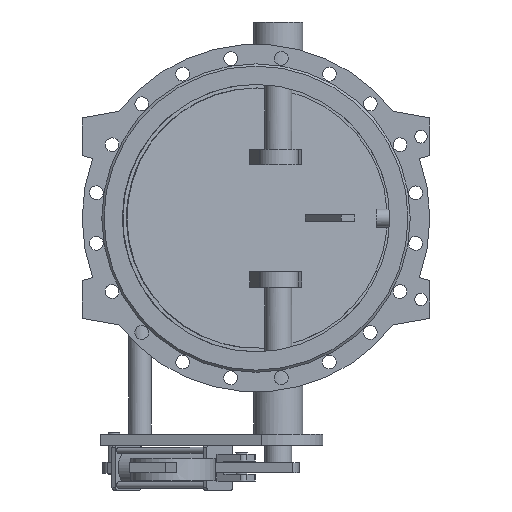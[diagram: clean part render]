
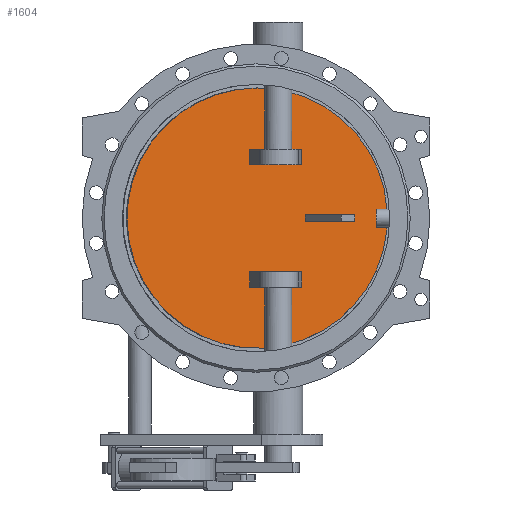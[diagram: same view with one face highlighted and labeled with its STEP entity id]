
A CAD part, front view. The second image highlights one B-rep face of the part: STEP entity #1604.
In plain terms, the highlighted planar face has unit normal (0.131, -0.991, 0).
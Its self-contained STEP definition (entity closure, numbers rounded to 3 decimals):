
#1604=ADVANCED_FACE('',(#3557,#3559,#3561,#3563),#3565,.T.);
#3557=FACE_BOUND('',#3558,.T.);
#3558=EDGE_LOOP('',(#4678));
#3559=FACE_BOUND('',#3560,.T.);
#3560=EDGE_LOOP('',(#4679,#4680,#4681,#4682));
#3561=FACE_BOUND('',#3562,.T.);
#3562=EDGE_LOOP('',(#4683,#4684,#4685,#4686));
#3563=FACE_BOUND('',#3564,.T.);
#3564=EDGE_LOOP('',(#4687,#4688,#4689,#4690));
#3565=PLANE('',#3566);
#3566=AXIS2_PLACEMENT_3D('',#3567,#3568,#3569);
#3567=CARTESIAN_POINT('',(-1.272,9.66,0.));
#3568=DIRECTION('',(0.131,-0.991,0.));
#3569=DIRECTION('',(0.,0.,-1.));
#4678=ORIENTED_EDGE('',*,*,#5177,.T.);
#4679=ORIENTED_EDGE('',*,*,#5194,.F.);
#4680=ORIENTED_EDGE('',*,*,#5195,.F.);
#4681=ORIENTED_EDGE('',*,*,#5196,.F.);
#4682=ORIENTED_EDGE('',*,*,#5197,.F.);
#4683=ORIENTED_EDGE('',*,*,#5198,.F.);
#4684=ORIENTED_EDGE('',*,*,#5199,.F.);
#4685=ORIENTED_EDGE('',*,*,#5200,.F.);
#4686=ORIENTED_EDGE('',*,*,#5201,.F.);
#4687=ORIENTED_EDGE('',*,*,#5202,.F.);
#4688=ORIENTED_EDGE('',*,*,#5203,.F.);
#4689=ORIENTED_EDGE('',*,*,#5204,.F.);
#4690=ORIENTED_EDGE('',*,*,#5205,.F.);
#5177=EDGE_CURVE('',#5917,#5917,#5918,.T.);
#5194=EDGE_CURVE('',#5951,#5952,#5953,.T.);
#5195=EDGE_CURVE('',#5954,#5951,#5955,.F.);
#5196=EDGE_CURVE('',#5956,#5954,#5957,.T.);
#5197=EDGE_CURVE('',#5952,#5956,#5958,.T.);
#5198=EDGE_CURVE('',#5959,#5960,#5961,.F.);
#5199=EDGE_CURVE('',#5962,#5959,#5963,.T.);
#5200=EDGE_CURVE('',#5964,#5962,#5965,.T.);
#5201=EDGE_CURVE('',#5960,#5964,#5966,.T.);
#5202=EDGE_CURVE('',#5967,#5968,#5969,.T.);
#5203=EDGE_CURVE('',#5970,#5967,#5971,.F.);
#5204=EDGE_CURVE('',#5972,#5970,#5973,.F.);
#5205=EDGE_CURVE('',#5968,#5972,#5974,.F.);
#5917=VERTEX_POINT('',#9003);
#5918=B_SPLINE_CURVE_WITH_KNOTS('',3,
(#9004,#9005,#9006,#9007,#9008,#9009,#9010,#9011,#9012,#9013,#9014,#9015,#9016,#9017,
#9018,#9019,#9020,#9021,#9022,#9023,#9024,#9025,#9026,#9027,#9028,#9029,#9030,#9031,
#9032,#9033,#9034,#9035,#9036,#9037,#9038,#9039,#9040,#9041,#9042,#9043,#9044,#9045,
#9046,#9047,#9048,#9049,#9050,#9051,#9052,#9053,#9054),
.UNSPECIFIED.,.T.,.F.,
(4,1,1,1,1,1,1,1,1,1,1,1,1,1,1,1,1,1,1,1,1,1,1,1,1,1,1,1,1,1,1,1,1,1,1,1,1,1,1,1,
1,1,1,1,1,1,1,1,4),
(0.,0.021,0.042,0.063,0.084,0.105,
0.126,0.147,0.168,0.189,0.211,
0.232,0.253,0.274,0.295,0.316,
0.337,0.358,0.379,0.4,0.421,
0.442,0.463,0.484,0.505,0.526,
0.548,0.569,0.59,0.611,0.632,
0.653,0.674,0.695,0.716,0.737,
0.758,0.779,0.8,0.821,0.842,
0.864,0.885,0.906,0.927,0.948,
0.969,0.986,1.),
.UNSPECIFIED.);
#5951=VERTEX_POINT('',#9635);
#5952=VERTEX_POINT('',#9636);
#5953=LINE('',#9637,#9638);
#5954=VERTEX_POINT('',#9640);
#5955=LINE('',#9641,#9642);
#5956=VERTEX_POINT('',#9644);
#5957=LINE('',#9645,#9646);
#5958=LINE('',#9648,#9649);
#5959=VERTEX_POINT('',#9651);
#5960=VERTEX_POINT('',#9652);
#5961=LINE('',#9653,#9654);
#5962=VERTEX_POINT('',#9656);
#5963=LINE('',#9657,#9658);
#5964=VERTEX_POINT('',#9660);
#5965=LINE('',#9661,#9662);
#5966=LINE('',#9664,#9665);
#5967=VERTEX_POINT('',#9667);
#5968=VERTEX_POINT('',#9668);
#5969=LINE('',#9669,#9670);
#5970=VERTEX_POINT('',#9672);
#5971=LINE('',#9673,#9674);
#5972=VERTEX_POINT('',#9676);
#5973=LINE('',#9677,#9678);
#5974=LINE('',#9680,#9681);
#9003=CARTESIAN_POINT('',(2.611,10.171,292.));
#9004=CARTESIAN_POINT('',(2.611,10.171,292.));
#9005=CARTESIAN_POINT('',(-10.219,8.482,292.));
#9006=CARTESIAN_POINT('',(-35.91,5.1,290.305));
#9007=CARTESIAN_POINT('',(-73.825,0.108,282.707));
#9008=CARTESIAN_POINT('',(-110.459,-4.715,270.157));
#9009=CARTESIAN_POINT('',(-145.138,-9.28,252.871));
#9010=CARTESIAN_POINT('',(-177.225,-13.505,231.166));
#9011=CARTESIAN_POINT('',(-206.166,-17.315,205.416));
#9012=CARTESIAN_POINT('',(-231.455,-20.644,176.075));
#9013=CARTESIAN_POINT('',(-252.648,-23.434,143.655));
#9014=CARTESIAN_POINT('',(-269.377,-25.637,108.723));
#9015=CARTESIAN_POINT('',(-281.348,-27.213,71.891));
#9016=CARTESIAN_POINT('',(-288.354,-28.135,33.802));
#9017=CARTESIAN_POINT('',(-290.271,-28.387,-4.878));
#9018=CARTESIAN_POINT('',(-287.066,-27.966,-43.472));
#9019=CARTESIAN_POINT('',(-278.796,-26.877,-81.306));
#9020=CARTESIAN_POINT('',(-265.604,-25.14,-117.719));
#9021=CARTESIAN_POINT('',(-247.722,-22.786,-152.073));
#9022=CARTESIAN_POINT('',(-225.461,-19.855,-183.769));
#9023=CARTESIAN_POINT('',(-199.21,-16.399,-212.252));
#9024=CARTESIAN_POINT('',(-169.427,-12.478,-237.024));
#9025=CARTESIAN_POINT('',(-136.633,-8.161,-257.651));
#9026=CARTESIAN_POINT('',(-101.401,-3.522,-273.77));
#9027=CARTESIAN_POINT('',(-64.347,1.356,-285.1));
#9028=CARTESIAN_POINT('',(-26.121,6.389,-291.442));
#9029=CARTESIAN_POINT('',(12.609,11.487,-292.683));
#9030=CARTESIAN_POINT('',(51.163,16.563,-288.803));
#9031=CARTESIAN_POINT('',(88.867,21.527,-279.869));
#9032=CARTESIAN_POINT('',(125.06,26.292,-266.039));
#9033=CARTESIAN_POINT('',(159.11,30.775,-247.554));
#9034=CARTESIAN_POINT('',(190.419,34.897,-224.739));
#9035=CARTESIAN_POINT('',(218.442,38.586,-197.994));
#9036=CARTESIAN_POINT('',(242.689,41.778,-167.787));
#9037=CARTESIAN_POINT('',(262.736,44.417,-134.647));
#9038=CARTESIAN_POINT('',(278.233,46.457,-99.152));
#9039=CARTESIAN_POINT('',(288.909,47.863,-61.924));
#9040=CARTESIAN_POINT('',(294.579,48.609,-23.614));
#9041=CARTESIAN_POINT('',(295.143,48.684,15.109));
#9042=CARTESIAN_POINT('',(290.591,48.084,53.568));
#9043=CARTESIAN_POINT('',(281.003,46.822,91.09));
#9044=CARTESIAN_POINT('',(266.546,44.919,127.019));
#9045=CARTESIAN_POINT('',(247.473,42.408,160.728));
#9046=CARTESIAN_POINT('',(224.118,39.333,191.627));
#9047=CARTESIAN_POINT('',(196.885,35.748,219.177));
#9048=CARTESIAN_POINT('',(166.261,31.716,242.887));
#9049=CARTESIAN_POINT('',(132.817,27.313,262.327));
#9050=CARTESIAN_POINT('',(97.037,22.603,277.222));
#9051=CARTESIAN_POINT('',(61.749,17.957,286.686));
#9052=CARTESIAN_POINT('',(30.023,13.78,291.181));
#9053=CARTESIAN_POINT('',(10.989,11.274,292.));
#9054=CARTESIAN_POINT('',(2.611,10.171,292.));
#9635=CARTESIAN_POINT('',(204.187,36.709,-7.5));
#9636=CARTESIAN_POINT('',(204.187,36.709,7.5));
#9637=CARTESIAN_POINT('',(204.187,36.709,-7.5));
#9638=VECTOR('',#9639,1.);
#9639=DIRECTION('',(0.,0.,1.));
#9640=CARTESIAN_POINT('',(110.,24.309,-7.5));
#9641=CARTESIAN_POINT('',(204.187,36.709,-7.5));
#9642=VECTOR('',#9643,1.);
#9643=DIRECTION('',(-0.991,-0.131,0.));
#9644=CARTESIAN_POINT('',(110.,24.309,7.5));
#9645=CARTESIAN_POINT('',(110.,24.309,7.5));
#9646=VECTOR('',#9647,1.);
#9647=DIRECTION('',(0.,0.,-1.));
#9648=CARTESIAN_POINT('',(204.187,36.709,7.5));
#9649=VECTOR('',#9650,1.);
#9650=DIRECTION('',(-0.991,-0.131,0.));
#9651=CARTESIAN_POINT('',(-14.418,7.929,-155.));
#9652=CARTESIAN_POINT('',(102.407,23.31,-155.));
#9653=CARTESIAN_POINT('',(102.407,23.31,-155.));
#9654=VECTOR('',#9655,1.);
#9655=DIRECTION('',(-0.991,-0.131,0.));
#9656=CARTESIAN_POINT('',(-14.418,7.929,-120.));
#9657=CARTESIAN_POINT('',(-14.418,7.929,-120.));
#9658=VECTOR('',#9659,1.);
#9659=DIRECTION('',(0.,0.,-1.));
#9660=CARTESIAN_POINT('',(102.407,23.31,-120.));
#9661=CARTESIAN_POINT('',(102.407,23.31,-120.));
#9662=VECTOR('',#9663,1.);
#9663=DIRECTION('',(-0.991,-0.131,0.));
#9664=CARTESIAN_POINT('',(102.407,23.31,-155.));
#9665=VECTOR('',#9666,1.);
#9666=DIRECTION('',(0.,0.,1.));
#9667=CARTESIAN_POINT('',(102.407,23.31,155.));
#9668=CARTESIAN_POINT('',(-14.418,7.929,155.));
#9669=CARTESIAN_POINT('',(102.407,23.31,155.));
#9670=VECTOR('',#9671,1.);
#9671=DIRECTION('',(-0.991,-0.131,0.));
#9672=CARTESIAN_POINT('',(102.407,23.31,120.));
#9673=CARTESIAN_POINT('',(102.407,23.31,155.));
#9674=VECTOR('',#9675,1.);
#9675=DIRECTION('',(0.,0.,-1.));
#9676=CARTESIAN_POINT('',(-14.418,7.929,120.));
#9677=CARTESIAN_POINT('',(102.407,23.31,120.));
#9678=VECTOR('',#9679,1.);
#9679=DIRECTION('',(-0.991,-0.131,0.));
#9680=CARTESIAN_POINT('',(-14.418,7.929,120.));
#9681=VECTOR('',#9682,1.);
#9682=DIRECTION('',(0.,0.,1.));
